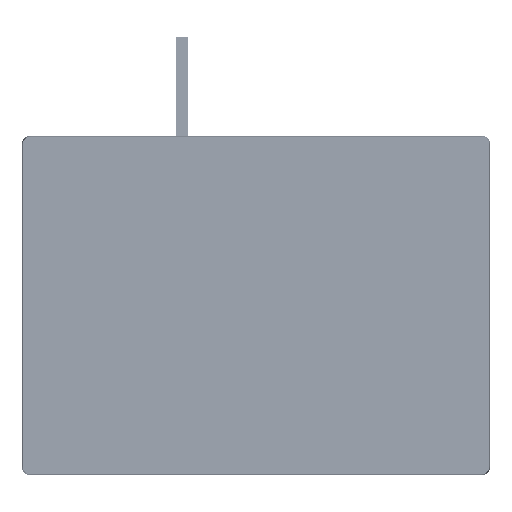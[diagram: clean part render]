
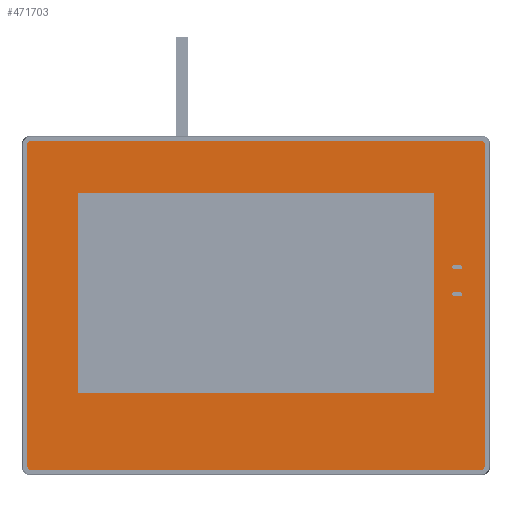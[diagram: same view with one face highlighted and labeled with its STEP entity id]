
A CAD part, top view. The second image highlights one B-rep face of the part: STEP entity #471703.
In plain terms, the highlighted planar face has unit normal (0, 0, 1).
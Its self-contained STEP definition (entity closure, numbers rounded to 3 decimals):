
#471047=DIRECTION('',(-1.,0.,0.));
#471048=VECTOR('',#471047,195.5);
#471049=CARTESIAN_POINT('',(97.75,71.55,5.8));
#471050=LINE('',#471049,#471048);
#471075=DIRECTION('',(0.,1.,0.));
#471076=VECTOR('',#471075,139.6);
#471077=CARTESIAN_POINT('',(99.5,-69.8,5.8));
#471078=LINE('',#471077,#471076);
#471110=DIRECTION('',(0.,-1.,0.));
#471111=VECTOR('',#471110,139.6);
#471112=CARTESIAN_POINT('',(-99.5,69.8,5.8));
#471113=LINE('',#471112,#471111);
#471131=DIRECTION('',(0.,-1.,0.));
#471132=VECTOR('',#471131,87.02);
#471133=CARTESIAN_POINT('',(-77.59,49.01,5.8));
#471134=LINE('',#471133,#471132);
#471138=DIRECTION('',(1.,0.,0.));
#471139=VECTOR('',#471138,155.18);
#471140=CARTESIAN_POINT('',(-77.59,-38.01,5.8));
#471141=LINE('',#471140,#471139);
#471145=DIRECTION('',(0.,1.,0.));
#471146=VECTOR('',#471145,87.02);
#471147=CARTESIAN_POINT('',(77.59,-38.01,5.8));
#471148=LINE('',#471147,#471146);
#471152=DIRECTION('',(-1.,0.,0.));
#471153=VECTOR('',#471152,155.18);
#471154=CARTESIAN_POINT('',(77.59,49.01,5.8));
#471155=LINE('',#471154,#471153);
#471159=CARTESIAN_POINT('',(86.,4.9,5.8));
#471160=DIRECTION('',(0.,0.,1.));
#471161=DIRECTION('',(0.,1.,0.));
#471162=AXIS2_PLACEMENT_3D('',#471159,#471160,#471161);
#471167=DIRECTION('',(1.,0.,0.));
#471168=VECTOR('',#471167,3.);
#471169=CARTESIAN_POINT('',(86.,4.15,5.8));
#471170=LINE('',#471169,#471168);
#471174=CARTESIAN_POINT('',(89.,4.9,5.8));
#471175=DIRECTION('',(0.,0.,1.));
#471176=DIRECTION('',(0.,-1.,0.));
#471177=AXIS2_PLACEMENT_3D('',#471174,#471175,#471176);
#471182=DIRECTION('',(-1.,0.,0.));
#471183=VECTOR('',#471182,3.);
#471184=CARTESIAN_POINT('',(89.,5.65,5.8));
#471185=LINE('',#471184,#471183);
#471189=DIRECTION('',(1.,0.,0.));
#471190=VECTOR('',#471189,3.);
#471191=CARTESIAN_POINT('',(86.,15.95,5.8));
#471192=LINE('',#471191,#471190);
#471196=CARTESIAN_POINT('',(89.,16.7,5.8));
#471197=DIRECTION('',(0.,0.,1.));
#471198=DIRECTION('',(0.,-1.,0.));
#471199=AXIS2_PLACEMENT_3D('',#471196,#471197,#471198);
#471204=DIRECTION('',(-1.,0.,0.));
#471205=VECTOR('',#471204,3.);
#471206=CARTESIAN_POINT('',(89.,17.45,5.8));
#471207=LINE('',#471206,#471205);
#471211=CARTESIAN_POINT('',(86.,16.7,5.8));
#471212=DIRECTION('',(0.,0.,1.));
#471213=DIRECTION('',(0.,1.,0.));
#471214=AXIS2_PLACEMENT_3D('',#471211,#471212,#471213);
#471219=CARTESIAN_POINT('',(-97.75,69.8,5.8));
#471220=DIRECTION('',(0.,0.,1.));
#471221=DIRECTION('',(0.,1.,0.));
#471222=AXIS2_PLACEMENT_3D('',#471219,#471220,#471221);
#471227=CARTESIAN_POINT('',(97.75,69.8,5.8));
#471228=DIRECTION('',(0.,0.,1.));
#471229=DIRECTION('',(1.,0.,0.));
#471230=AXIS2_PLACEMENT_3D('',#471227,#471228,#471229);
#471235=CARTESIAN_POINT('',(97.75,-69.8,5.8));
#471236=DIRECTION('',(0.,0.,1.));
#471237=DIRECTION('',(0.,-1.,0.));
#471238=AXIS2_PLACEMENT_3D('',#471235,#471236,#471237);
#471243=DIRECTION('',(-1.,0.,0.));
#471244=VECTOR('',#471243,195.5);
#471245=CARTESIAN_POINT('',(97.75,-71.55,5.8));
#471246=LINE('',#471245,#471244);
#471250=CARTESIAN_POINT('',(-97.75,-69.8,5.8));
#471251=DIRECTION('',(0.,0.,1.));
#471252=DIRECTION('',(-1.,0.,0.));
#471253=AXIS2_PLACEMENT_3D('',#471250,#471251,#471252);
#471438=CARTESIAN_POINT('',(-77.59,49.01,5.8));
#471439=CARTESIAN_POINT('',(-77.59,-38.01,5.8));
#471440=VERTEX_POINT('',#471438);
#471441=VERTEX_POINT('',#471439);
#471442=CARTESIAN_POINT('',(77.59,-38.01,5.8));
#471443=VERTEX_POINT('',#471442);
#471444=CARTESIAN_POINT('',(77.59,49.01,5.8));
#471445=VERTEX_POINT('',#471444);
#471462=CARTESIAN_POINT('',(86.,5.65,5.8));
#471463=CARTESIAN_POINT('',(86.,4.15,5.8));
#471464=VERTEX_POINT('',#471462);
#471465=VERTEX_POINT('',#471463);
#471466=CARTESIAN_POINT('',(89.,4.15,5.8));
#471467=VERTEX_POINT('',#471466);
#471468=CARTESIAN_POINT('',(89.,5.65,5.8));
#471469=VERTEX_POINT('',#471468);
#471470=CARTESIAN_POINT('',(86.,15.95,5.8));
#471471=CARTESIAN_POINT('',(89.,15.95,5.8));
#471472=VERTEX_POINT('',#471470);
#471473=VERTEX_POINT('',#471471);
#471474=CARTESIAN_POINT('',(89.,17.45,5.8));
#471475=VERTEX_POINT('',#471474);
#471476=CARTESIAN_POINT('',(86.,17.45,5.8));
#471477=VERTEX_POINT('',#471476);
#471482=CARTESIAN_POINT('',(-97.75,71.55,5.8));
#471483=VERTEX_POINT('',#471482);
#471484=CARTESIAN_POINT('',(-99.5,69.8,5.8));
#471485=VERTEX_POINT('',#471484);
#471490=CARTESIAN_POINT('',(99.5,69.8,5.8));
#471491=VERTEX_POINT('',#471490);
#471492=CARTESIAN_POINT('',(97.75,71.55,5.8));
#471493=VERTEX_POINT('',#471492);
#471498=CARTESIAN_POINT('',(97.75,-71.55,5.8));
#471499=VERTEX_POINT('',#471498);
#471500=CARTESIAN_POINT('',(99.5,-69.8,5.8));
#471501=VERTEX_POINT('',#471500);
#471506=CARTESIAN_POINT('',(-99.5,-69.8,5.8));
#471507=VERTEX_POINT('',#471506);
#471508=CARTESIAN_POINT('',(-97.75,-71.55,5.8));
#471509=VERTEX_POINT('',#471508);
#471658=CARTESIAN_POINT('',(0.,0.,5.8));
#471659=DIRECTION('',(0.,0.,1.));
#471660=DIRECTION('',(-1.,0.,0.));
#471661=AXIS2_PLACEMENT_3D('',#471658,#471659,#471660);
#471662=PLANE('',#471661);
#471663=ORIENTED_EDGE('',*,*,#471554,.F.);
#471664=ORIENTED_EDGE('',*,*,#471570,.F.);
#471665=ORIENTED_EDGE('',*,*,#471583,.F.);
#471666=ORIENTED_EDGE('',*,*,#471598,.F.);
#471667=ORIENTED_EDGE('',*,*,#471611,.F.);
#471668=ORIENTED_EDGE('',*,*,#471626,.T.);
#471669=ORIENTED_EDGE('',*,*,#471639,.F.);
#471670=ORIENTED_EDGE('',*,*,#471651,.F.);
#471671=EDGE_LOOP('',(#471663,#471664,#471665,#471666,#471667,#471668,#471669,
#471670));
#471672=FACE_OUTER_BOUND('',#471671,.F.);
#471674=ORIENTED_EDGE('',*,*,#471673,.T.);
#471676=ORIENTED_EDGE('',*,*,#471675,.T.);
#471678=ORIENTED_EDGE('',*,*,#471677,.T.);
#471680=ORIENTED_EDGE('',*,*,#471679,.T.);
#471681=EDGE_LOOP('',(#471674,#471676,#471678,#471680));
#471682=FACE_BOUND('',#471681,.F.);
#471684=ORIENTED_EDGE('',*,*,#471683,.T.);
#471686=ORIENTED_EDGE('',*,*,#471685,.T.);
#471688=ORIENTED_EDGE('',*,*,#471687,.T.);
#471690=ORIENTED_EDGE('',*,*,#471689,.T.);
#471691=EDGE_LOOP('',(#471684,#471686,#471688,#471690));
#471692=FACE_BOUND('',#471691,.F.);
#471694=ORIENTED_EDGE('',*,*,#471693,.T.);
#471696=ORIENTED_EDGE('',*,*,#471695,.T.);
#471698=ORIENTED_EDGE('',*,*,#471697,.T.);
#471700=ORIENTED_EDGE('',*,*,#471699,.T.);
#471701=EDGE_LOOP('',(#471694,#471696,#471698,#471700));
#471702=FACE_BOUND('',#471701,.F.);
#471163=CIRCLE('',#471162,0.75);
#471178=CIRCLE('',#471177,0.75);
#471200=CIRCLE('',#471199,0.75);
#471215=CIRCLE('',#471214,0.75);
#471223=CIRCLE('',#471222,1.75);
#471231=CIRCLE('',#471230,1.75);
#471239=CIRCLE('',#471238,1.75);
#471254=CIRCLE('',#471253,1.75);
#471554=EDGE_CURVE('',#471483,#471485,#471223,.T.);
#471570=EDGE_CURVE('',#471493,#471483,#471050,.T.);
#471583=EDGE_CURVE('',#471491,#471493,#471231,.T.);
#471598=EDGE_CURVE('',#471501,#471491,#471078,.T.);
#471611=EDGE_CURVE('',#471499,#471501,#471239,.T.);
#471626=EDGE_CURVE('',#471499,#471509,#471246,.T.);
#471639=EDGE_CURVE('',#471507,#471509,#471254,.T.);
#471651=EDGE_CURVE('',#471485,#471507,#471113,.T.);
#471673=EDGE_CURVE('',#471464,#471465,#471163,.T.);
#471675=EDGE_CURVE('',#471465,#471467,#471170,.T.);
#471677=EDGE_CURVE('',#471467,#471469,#471178,.T.);
#471679=EDGE_CURVE('',#471469,#471464,#471185,.T.);
#471683=EDGE_CURVE('',#471472,#471473,#471192,.T.);
#471685=EDGE_CURVE('',#471473,#471475,#471200,.T.);
#471687=EDGE_CURVE('',#471475,#471477,#471207,.T.);
#471689=EDGE_CURVE('',#471477,#471472,#471215,.T.);
#471693=EDGE_CURVE('',#471440,#471441,#471134,.T.);
#471695=EDGE_CURVE('',#471441,#471443,#471141,.T.);
#471697=EDGE_CURVE('',#471443,#471445,#471148,.T.);
#471699=EDGE_CURVE('',#471445,#471440,#471155,.T.);
#471703=ADVANCED_FACE('',(#471672,#471682,#471692,#471702),#471662,.T.);
